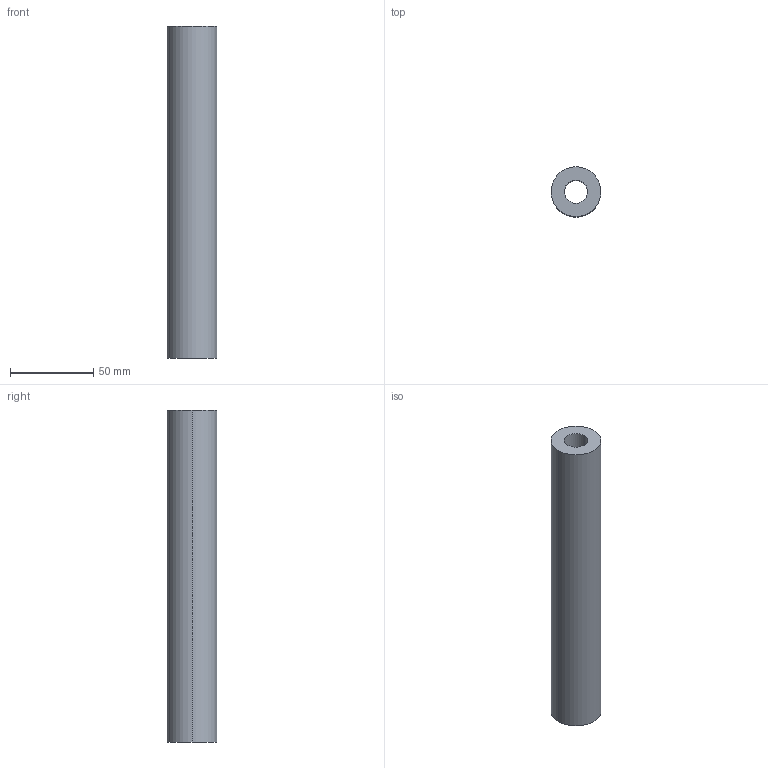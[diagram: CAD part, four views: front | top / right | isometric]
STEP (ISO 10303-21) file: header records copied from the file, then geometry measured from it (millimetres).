
FILE_DESCRIPTION(/* description */ (''),/* implementation_level */ '2;1');
FILE_NAME(/* name */ '3d_pla30-200_04964_r00.stp',/* time_stamp */ '2011-01-10T14:11:43+09:00',/* author */ ('MISUMI'),/* organization */ (''),/* preprocessor_version */ 'ST-DEVELOPER v11',/* originating_system */ 'UGS - NX 5.0',/* authorisation */ '');
FILE_SCHEMA (('CONFIG_CONTROL_DESIGN'));
Length unit declared in the file: millimetre
Products named in the file (1): 3d_pla30-200_04964_r00
Bounding box: 30 x 30 x 200 mm (x, y, z)
Volume: 110584.1 mm3; surface area: 28751.9 mm2
Topology: 1 solids, 1 shells, 6 faces, 12 edges, 8 vertices
Faces by surface type: cylinder 4, plane 2
Entity records: 254 total; most frequent: DIRECTION 34, CARTESIAN_POINT 27, ORIENTED_EDGE 24, AXIS2_PLACEMENT_3D 15, EDGE_CURVE 12, EDGE_LOOP 8, VERTEX_POINT 8, CIRCLE 8
